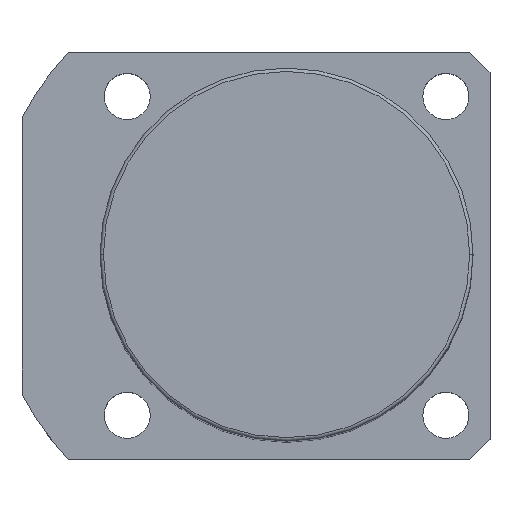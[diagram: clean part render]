
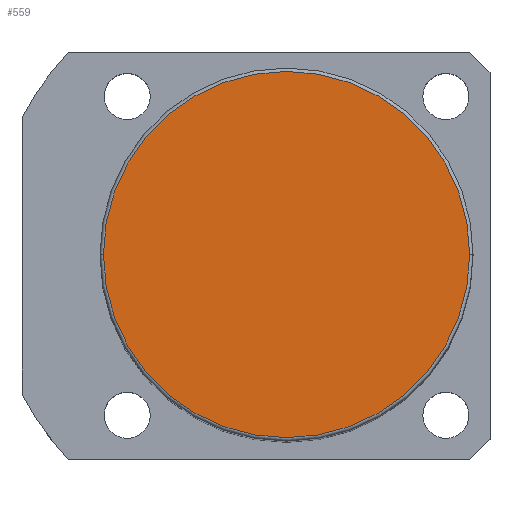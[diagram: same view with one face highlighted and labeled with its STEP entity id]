
A CAD part, top view. The second image highlights one B-rep face of the part: STEP entity #559.
In plain terms, the highlighted planar face has unit normal (0, 0, 1).
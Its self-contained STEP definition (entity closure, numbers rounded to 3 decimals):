
#204 = ORIENTED_EDGE ( 'NONE', *, *, #1397, .T. ) ;
#249 = ORIENTED_EDGE ( 'NONE', *, *, #818, .T. ) ;
#265 = CARTESIAN_POINT ( 'NONE',  ( -27., 0., 121. ) ) ;
#291 = FACE_OUTER_BOUND ( 'NONE', #940, .T. ) ;
#297 = AXIS2_PLACEMENT_3D ( 'NONE', #1781, #330, #1345 ) ;
#330 = DIRECTION ( 'NONE',  ( 0., 0., 1. ) ) ;
#333 = DIRECTION ( 'NONE',  ( 0., 0., 1. ) ) ;
#402 = CIRCLE ( 'NONE', #297, 27. ) ;
#430 = PLANE ( 'NONE',  #1180 ) ;
#559 = ADVANCED_FACE ( 'NONE', ( #291 ), #430, .T. ) ;
#566 = VERTEX_POINT ( 'NONE', #265 ) ;
#642 = CARTESIAN_POINT ( 'NONE',  ( 27., 0., 121. ) ) ;
#787 = DIRECTION ( 'NONE',  ( 1., 0., 0. ) ) ;
#818 = EDGE_CURVE ( 'NONE', #566, #1391, #402, .T. ) ;
#928 = CIRCLE ( 'NONE', #1227, 27. ) ;
#940 = EDGE_LOOP ( 'NONE', ( #204, #249 ) ) ;
#1001 = DIRECTION ( 'NONE',  ( 1., 0., 0. ) ) ;
#1065 = CARTESIAN_POINT ( 'NONE',  ( 0., 0., 121. ) ) ;
#1180 = AXIS2_PLACEMENT_3D ( 'NONE', #1429, #1824, #1001 ) ;
#1227 = AXIS2_PLACEMENT_3D ( 'NONE', #1065, #333, #787 ) ;
#1345 = DIRECTION ( 'NONE',  ( 1., 0., 0. ) ) ;
#1391 = VERTEX_POINT ( 'NONE', #642 ) ;
#1397 = EDGE_CURVE ( 'NONE', #1391, #566, #928, .T. ) ;
#1429 = CARTESIAN_POINT ( 'NONE',  ( 0., 0., 121. ) ) ;
#1781 = CARTESIAN_POINT ( 'NONE',  ( 0., 0., 121. ) ) ;
#1824 = DIRECTION ( 'NONE',  ( 0., 0., 1. ) ) ;
